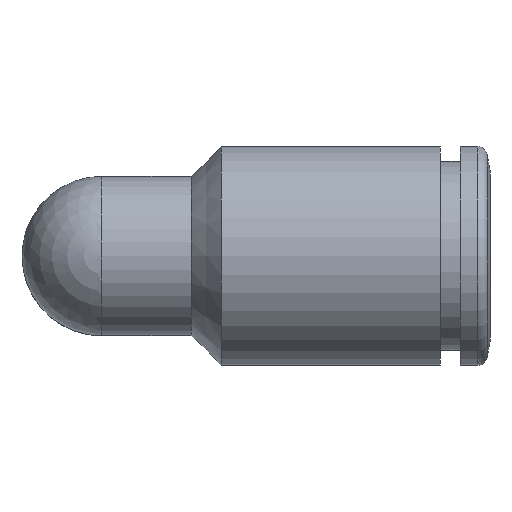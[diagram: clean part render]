
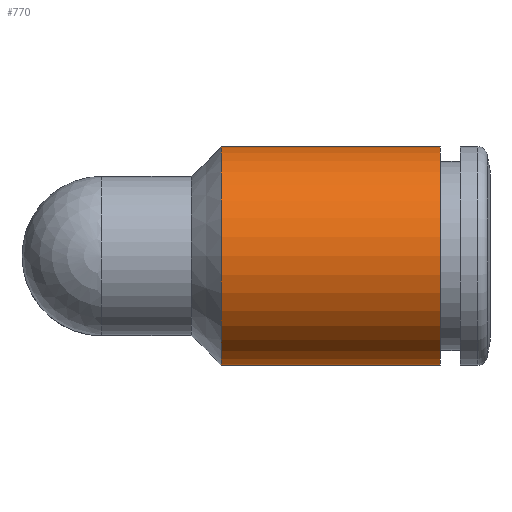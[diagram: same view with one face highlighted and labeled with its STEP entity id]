
A CAD part, top view. The second image highlights one B-rep face of the part: STEP entity #770.
In plain terms, the highlighted cylindrical face has radius 5.5 mm (diameter 11 mm), a full revolution.
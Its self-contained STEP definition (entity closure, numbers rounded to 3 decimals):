
#770=ADVANCED_FACE('', (#780,#790), #800, .T.);
#2150=AXIS2_PLACEMENT_3D('Ax2Pl3d', #2160, #2170, #2180);
#2990=AXIS2_PLACEMENT_3D('Ax2Pl3d', #3000, #3010, #3020);
#3030=AXIS2_PLACEMENT_3D('Ax2Pl3d', #3040, #3050, #3060);
#2160=CARTESIAN_POINT('HicPkt', (31.047,2.054,
36.066));
#10410=CARTESIAN_POINT('', (31.047,2.054,41.566));
#3000=CARTESIAN_POINT('HicPkt', (20.047,2.054,
36.066));
#10510=CARTESIAN_POINT('', (20.047,2.054,41.566));
#3040=CARTESIAN_POINT('HicPkt', (20.047,2.054,
36.066));
#10760=CIRCLE('Circle', #2150, 5.5);
#10860=CIRCLE('Circle', #2990, 5.5);
#800=CYLINDRICAL_SURFACE('Zyl', #3030, 5.5);
#2170=DIRECTION('Axis', (1.,0.,0.));
#2180=DIRECTION('RefDirection', (0.,0.,-1.));
#3010=DIRECTION('Axis', (1.,0.,0.));
#3020=DIRECTION('RefDirection', (0.,0.,-1.));
#3050=DIRECTION('Axis', (1.,0.,0.));
#3060=DIRECTION('RefDirection', (0.,0.,-1.));
#12440=EDGE_CURVE('', #12450, #12450, #10760, .T.);
#12660=EDGE_CURVE('', #12670, #12670, #10860, .T.);
#13740=EDGE_LOOP('Edge_loop', (#13750));
#13760=EDGE_LOOP('Edge_loop', (#13770));
#790=FACE_BOUND('', #13760, .T.);
#780=FACE_OUTER_BOUND('Face_outer_bound', #13740, .T.);
#13750=ORIENTED_EDGE('', *, *, #12440, .F.);
#13770=ORIENTED_EDGE('', *, *, #12660, .T.);
#12450=VERTEX_POINT('', #10410);
#12670=VERTEX_POINT('', #10510);
